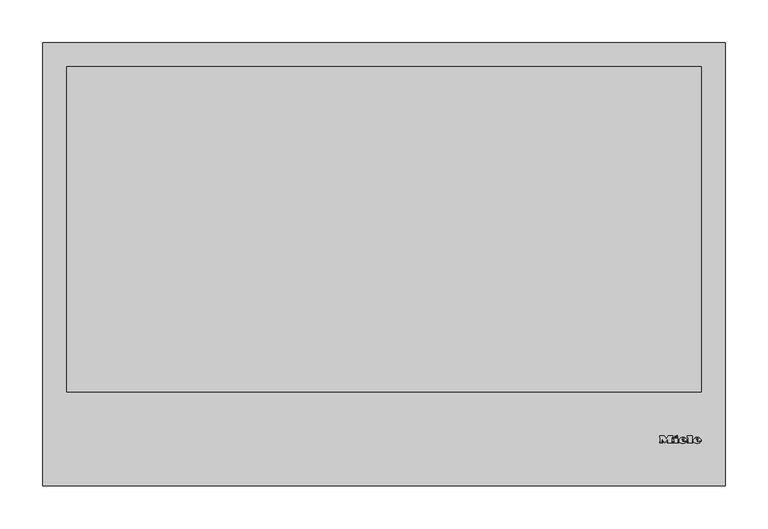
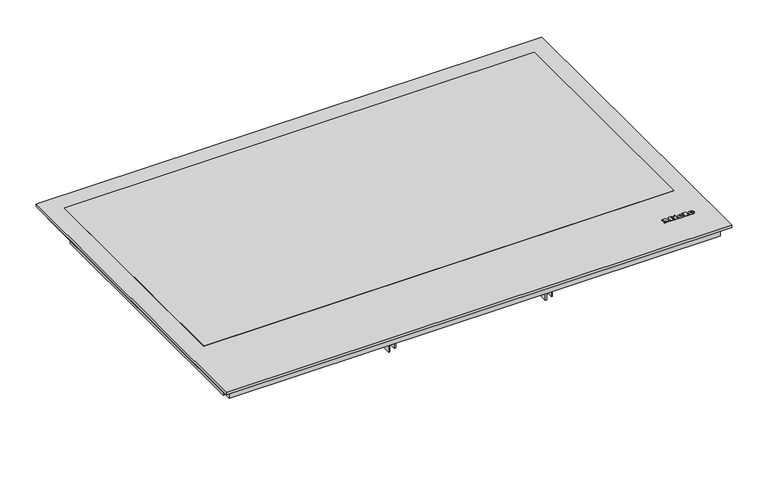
"""IFC4 building model written with IfcOpenShell, lengths in millimetres: proxy geometry, 11754170_BNE_KM7678FL : 26767870_BNE_11754170_KM7678FL."""

from ifc_helpers import new_model, si_unit, point, frame, frame_2d, origin, origin_with_axes, place, context, project, spatial, polyline, circle_curve, ellipse_curve, trimmed, segment, composite_curve, outline, extrude, source, transform, mapped, element, save
from ifc_brep_helpers import plane_surface, cylinder_surface, revolved_surface, extruded_surface, advanced_brep


def specialty_equipment_21553ecd(model_context):
    return source(origin(), model_context, "Body", "SolidModel", [
        advanced_brep(
        [(366.36, 52.3948833, 4.4802537), (366.36, 53.2028828, 4.4811551), (371.712, 53.2028828, 4.4811551), (362.4, 53.2028828, 4.4811551), (364.6, 50.4988845, 4.4781386), (371.576, 52.3948833, 4.4802537), (369.16, 52.3948833, 4.4802537), (367.256, 51.4988838, 4.4792542), (366.36, 54.2268821, 4.4822974), (366.36, 55.0988816, 4.4832701), (367.728, 55.0988816, 4.4832701), (367.728, 54.2268821, 4.4822974), (366.36, 52.3959988, 3.4802543), (367.256, 51.4999994, 3.4792548), (369.16, 52.3959988, 3.4802543), (371.576, 52.3959988, 3.4802543), (364.6, 50.5, 3.4781393), (362.4, 53.2039983, 3.4811557), (371.712, 53.2039983, 3.4811557), (366.36, 53.2039983, 3.4811557), (366.36, 54.2279977, 3.482298), (367.728, 54.2279977, 3.482298), (367.728, 55.0999971, 3.4832707), (366.36, 55.0999971, 3.4832707)],
        [
            (0, 1),
            (1, 2),
            (2, 3, ellipse_curve(frame((367.056, 53.2028828, 4.4811551), z_axis=(0.0, -0.0011155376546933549, 0.9999993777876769), x_axis=(-1.0, 0.0, 0.0)), 4.656, 3.848)),
            (3, 4, circle_curve(frame((365.4960436, 53.4748826, 4.4814585), z_axis=(0.0, -0.0011155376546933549, 0.9999993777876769), x_axis=(0.0, -0.9999993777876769, -0.0011155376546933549)), 3.1079688)),
            (4, 5, circle_curve(frame((366.9627936, 55.5868813, 4.4838145), z_axis=(0.0, -0.0011155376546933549, 0.9999993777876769), x_axis=(0.0, -0.9999993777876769, -0.0011155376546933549)), 5.6098607)),
            (5, 6),
            (6, 7, circle_curve(frame((367.6470588, 53.1388828, 4.4810837), z_axis=(0.0, 0.0011155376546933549, -0.9999993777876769), x_axis=(0.0, -0.9999993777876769, -0.0011155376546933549)), 1.6859795)),
            (7, 0, circle_curve(frame((367.256, 52.3948833, 4.4802537), z_axis=(0.0, 0.0011155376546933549, -0.9999993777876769), x_axis=(0.0, -0.9999993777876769, -0.0011155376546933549)), 0.896)),
            (8, 9),
            (9, 10, circle_curve(frame((367.044, 55.0988816, 4.4832701), z_axis=(0.0, 0.0011155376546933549, -0.9999993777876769), x_axis=(0.0, -0.9999993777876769, -0.0011155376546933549)), 0.684)),
            (10, 11),
            (11, 8),
            (12, 13, circle_curve(frame((367.256, 52.3959988, 3.4802543), z_axis=(0.0, -0.0011155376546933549, 0.9999993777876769), x_axis=(0.0, -0.9999993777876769, -0.0011155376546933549)), 0.896)),
            (13, 14, circle_curve(frame((367.6470588, 53.1399984, 3.4810843), z_axis=(0.0, -0.0011155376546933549, 0.9999993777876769), x_axis=(0.0, -0.9999993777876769, -0.0011155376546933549)), 1.6859795)),
            (14, 15),
            (15, 16, circle_curve(frame((366.9627936, 55.5879968, 3.4838151), z_axis=(0.0, 0.0011155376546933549, -0.9999993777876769), x_axis=(0.0, -0.9999993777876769, -0.0011155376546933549)), 5.6098607)),
            (16, 17, circle_curve(frame((365.4960436, 53.4759981, 3.4814591), z_axis=(0.0, 0.0011155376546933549, -0.9999993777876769), x_axis=(0.0, -0.9999993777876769, -0.0011155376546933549)), 3.1079688)),
            (17, 18, ellipse_curve(frame((367.056, 53.2039983, 3.4811557), z_axis=(0.0, 0.0011155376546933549, -0.9999993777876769), x_axis=(-1.0, 0.0, 0.0)), 4.656, 3.848)),
            (18, 19),
            (19, 12),
            (20, 21),
            (21, 22),
            (22, 23, circle_curve(frame((367.044, 55.0999971, 3.4832707), z_axis=(0.0, -0.0011155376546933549, 0.9999993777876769), x_axis=(0.0, -0.9999993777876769, -0.0011155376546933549)), 0.684)),
            (23, 20),
            (0, 12),
            (19, 1),
            (18, 2),
            (5, 15),
            (14, 6),
            (17, 3),
            (13, 7),
            (16, 4),
            (8, 20),
            (23, 9),
            (22, 10),
            (21, 11),
        ],
        [
            plane_surface(frame((366.36, 53.2028828, 4.4811551), z_axis=(0.0, -0.0011155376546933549, 0.9999993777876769), x_axis=(0.0, 0.9999993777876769, 0.0011155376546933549))),
            plane_surface(frame((366.36, 53.2039983, 3.4811557), z_axis=(0.0, 0.0011155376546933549, -0.9999993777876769), x_axis=(0.0, -0.9999993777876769, -0.0011155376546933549))),
            plane_surface(frame((366.36, 52.3948833, 4.4802537), z_axis=(1.0000000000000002, 0.0, 0.0), x_axis=(0.0, 0.001115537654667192, -0.999999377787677))),
            plane_surface(frame((366.36, 53.2028828, 4.4811551), z_axis=(0.0, -0.999999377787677, -0.001115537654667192), x_axis=(0.0, 0.001115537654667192, -0.999999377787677))),
            plane_surface(frame((371.576, 52.3948833, 4.4802537), z_axis=(0.0, 0.999999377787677, 0.001115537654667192), x_axis=(0.0, 0.001115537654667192, -0.999999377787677))),
            extruded_surface(trimmed(ellipse_curve(frame((367.056, 53.2051139, 2.4811563), z_axis=(0.0, -0.0011155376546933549, 0.9999993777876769), x_axis=(-1.0, 0.0, 0.0)), 4.656, 3.848), [point((371.712, 53.2051139, 2.4811563))], [point((362.4, 53.2051139, 2.4811563))], True, "CARTESIAN"), (0.0, -0.001115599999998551, 0.9999994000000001), 1.00000002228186),
            revolved_surface(polyline([(367.6470588, 51.454019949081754, 3.479203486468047), (367.6470588, 51.45290441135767, 4.4792029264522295)]), (367.6470588, 53.1399984, 3.4810843), (0.0, 0.0011155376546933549, -0.9999993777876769)),
            revolved_surface(polyline([(367.256, 51.49999935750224, 3.4792547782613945), (367.256, 51.49888381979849, 4.479254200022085)]), (367.256, 52.3959988, 3.4802543), (0.0, 0.0011155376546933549, -0.9999993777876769)),
            cylinder_surface(frame((365.4960436, 53.4759981, 3.4814591), z_axis=(0.0, -0.0011155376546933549, 0.9999993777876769), x_axis=(0.0, -0.9999993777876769, -0.0011155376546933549)), 3.1079688),
            cylinder_surface(frame((366.9627936, 55.5879968, 3.4838151), z_axis=(0.0, -0.0011155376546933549, 0.9999993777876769), x_axis=(0.0, -0.9999993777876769, -0.0011155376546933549)), 5.6098607),
            plane_surface(frame((366.36, 54.2268821, 4.4822974), z_axis=(1.0000000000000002, 0.0, 0.0), x_axis=(0.0, 0.001115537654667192, -0.999999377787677))),
            revolved_surface(polyline([(367.044, 54.415997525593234, 3.4825076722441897), (367.044, 54.41488198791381, 4.482507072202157)]), (367.044, 55.0999971, 3.4832707), (0.0, 0.0011155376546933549, -0.9999993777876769)),
            plane_surface(frame((367.728, 55.0988816, 4.4832701), z_axis=(-1.0000000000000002, 0.0, 0.0), x_axis=(0.0, 0.001115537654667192, -0.999999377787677))),
            plane_surface(frame((367.728, 54.2268821, 4.4822974), z_axis=(0.0, 0.999999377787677, 0.001115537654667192), x_axis=(0.0, 0.001115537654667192, -0.999999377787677))),
        ],
        [
            (0, [[1, 2, 3, 4, 5, 6, 7, 8], [9, 10, 11, 12]]),
            (1, [[13, 14, 15, 16, 17, 18, 19, 20], [21, 22, 23, 24]]),
            (2, [[-1, 25, -20, 26]]),
            (3, [[-2, -26, -19, 27]]),
            (4, [[-6, 28, -15, 29]]),
            (5, [[-3, -27, -18, 30]]),
            (6, [[-7, -29, -14, 31]]),
            (7, [[-8, -31, -13, -25]]),
            (8, [[-4, -30, -17, 32]]),
            (9, [[-5, -32, -16, -28]]),
            (10, [[-9, 33, -24, 34]]),
            (11, [[-10, -34, -23, 35]]),
            (12, [[-11, -35, -22, 36]]),
            (13, [[-12, -36, -21, -33]]),
        ],
    ),
        advanced_brep(
        [(349.664, 52.3948833, 4.4802537), (349.664, 53.2028828, 4.4811551), (355.016, 53.2028828, 4.4811551), (345.704, 53.2028828, 4.4811551), (347.904, 50.4988845, 4.4781386), (354.88, 52.3948833, 4.4802537), (352.464, 52.3948833, 4.4802537), (350.56, 51.4988838, 4.4792542), (349.664, 54.2268821, 4.4822974), (349.664, 55.0988816, 4.4832701), (351.032, 55.0988816, 4.4832701), (351.032, 54.2268821, 4.4822974), (349.664, 52.3959988, 3.4802543), (350.56, 51.4999994, 3.4792548), (352.464, 52.3959988, 3.4802543), (354.88, 52.3959988, 3.4802543), (347.904, 50.5, 3.4781393), (345.704, 53.2039983, 3.4811557), (355.016, 53.2039983, 3.4811557), (349.664, 53.2039983, 3.4811557), (349.664, 54.2279977, 3.482298), (351.032, 54.2279977, 3.482298), (351.032, 55.0999971, 3.4832707), (349.664, 55.0999971, 3.4832707)],
        [
            (0, 1),
            (1, 2),
            (2, 3, ellipse_curve(frame((350.36, 53.2028828, 4.4811551), z_axis=(0.0, -0.0011155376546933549, 0.9999993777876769), x_axis=(-1.0, 0.0, 0.0)), 4.656, 3.848)),
            (3, 4, circle_curve(frame((348.8000436, 53.4748826, 4.4814585), z_axis=(0.0, -0.0011155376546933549, 0.9999993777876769), x_axis=(0.0, -0.9999993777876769, -0.0011155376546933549)), 3.1079688)),
            (4, 5, circle_curve(frame((350.2667936, 55.5868813, 4.4838145), z_axis=(0.0, -0.0011155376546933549, 0.9999993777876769), x_axis=(0.0, -0.9999993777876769, -0.0011155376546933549)), 5.6098607)),
            (5, 6),
            (6, 7, circle_curve(frame((350.9510588, 53.1388828, 4.4810837), z_axis=(0.0, 0.0011155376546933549, -0.9999993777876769), x_axis=(0.0, -0.9999993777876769, -0.0011155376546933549)), 1.6859795)),
            (7, 0, circle_curve(frame((350.56, 52.3948833, 4.4802537), z_axis=(0.0, 0.0011155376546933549, -0.9999993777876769), x_axis=(0.0, -0.9999993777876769, -0.0011155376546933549)), 0.896)),
            (8, 9),
            (9, 10, circle_curve(frame((350.348, 55.0988816, 4.4832701), z_axis=(0.0, 0.0011155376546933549, -0.9999993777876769), x_axis=(0.0, -0.9999993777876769, -0.0011155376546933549)), 0.684)),
            (10, 11),
            (11, 8),
            (12, 13, circle_curve(frame((350.56, 52.3959988, 3.4802543), z_axis=(0.0, -0.0011155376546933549, 0.9999993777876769), x_axis=(0.0, -0.9999993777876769, -0.0011155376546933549)), 0.896)),
            (13, 14, circle_curve(frame((350.9510588, 53.1399984, 3.4810843), z_axis=(0.0, -0.0011155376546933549, 0.9999993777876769), x_axis=(0.0, -0.9999993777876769, -0.0011155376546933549)), 1.6859795)),
            (14, 15),
            (15, 16, circle_curve(frame((350.2667936, 55.5879968, 3.4838151), z_axis=(0.0, 0.0011155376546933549, -0.9999993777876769), x_axis=(0.0, -0.9999993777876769, -0.0011155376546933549)), 5.6098607)),
            (16, 17, circle_curve(frame((348.8000436, 53.4759981, 3.4814591), z_axis=(0.0, 0.0011155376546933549, -0.9999993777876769), x_axis=(0.0, -0.9999993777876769, -0.0011155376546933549)), 3.1079688)),
            (17, 18, ellipse_curve(frame((350.36, 53.2039983, 3.4811557), z_axis=(0.0, 0.0011155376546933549, -0.9999993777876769), x_axis=(-1.0, 0.0, 0.0)), 4.656, 3.848)),
            (18, 19),
            (19, 12),
            (20, 21),
            (21, 22),
            (22, 23, circle_curve(frame((350.348, 55.0999971, 3.4832707), z_axis=(0.0, -0.0011155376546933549, 0.9999993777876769), x_axis=(0.0, -0.9999993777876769, -0.0011155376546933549)), 0.684)),
            (23, 20),
            (0, 12),
            (19, 1),
            (18, 2),
            (5, 15),
            (14, 6),
            (17, 3),
            (13, 7),
            (16, 4),
            (8, 20),
            (23, 9),
            (22, 10),
            (21, 11),
        ],
        [
            plane_surface(frame((349.664, 53.2028828, 4.4811551), z_axis=(0.0, -0.0011155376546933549, 0.9999993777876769), x_axis=(0.0, 0.9999993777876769, 0.0011155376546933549))),
            plane_surface(frame((349.664, 53.2039983, 3.4811557), z_axis=(0.0, 0.0011155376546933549, -0.9999993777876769), x_axis=(0.0, -0.9999993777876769, -0.0011155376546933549))),
            plane_surface(frame((349.664, 52.3948833, 4.4802537), z_axis=(1.0000000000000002, 0.0, 0.0), x_axis=(0.0, 0.001115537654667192, -0.999999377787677))),
            plane_surface(frame((349.664, 53.2028828, 4.4811551), z_axis=(0.0, -0.999999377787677, -0.001115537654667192), x_axis=(0.0, 0.001115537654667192, -0.999999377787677))),
            plane_surface(frame((354.88, 52.3948833, 4.4802537), z_axis=(0.0, 0.999999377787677, 0.001115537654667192), x_axis=(0.0, 0.001115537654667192, -0.999999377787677))),
            extruded_surface(trimmed(ellipse_curve(frame((350.36, 53.2051139, 2.4811563), z_axis=(0.0, -0.0011155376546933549, 0.9999993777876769), x_axis=(-1.0, 0.0, 0.0)), 4.656, 3.848), [point((355.016, 53.2051139, 2.4811563))], [point((345.704, 53.2051139, 2.4811563))], True, "CARTESIAN"), (0.0, -0.001115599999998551, 0.9999994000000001), 1.00000002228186),
            revolved_surface(polyline([(350.9510588, 51.454019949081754, 3.479203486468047), (350.9510588, 51.45290441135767, 4.4792029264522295)]), (350.9510588, 53.1399984, 3.4810843), (0.0, 0.0011155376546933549, -0.9999993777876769)),
            revolved_surface(polyline([(350.56, 51.49999935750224, 3.4792547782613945), (350.56, 51.49888381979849, 4.479254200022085)]), (350.56, 52.3959988, 3.4802543), (0.0, 0.0011155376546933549, -0.9999993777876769)),
            cylinder_surface(frame((348.8000436, 53.4759981, 3.4814591), z_axis=(0.0, -0.0011155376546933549, 0.9999993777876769), x_axis=(0.0, -0.9999993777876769, -0.0011155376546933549)), 3.1079688),
            cylinder_surface(frame((350.2667936, 55.5879968, 3.4838151), z_axis=(0.0, -0.0011155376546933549, 0.9999993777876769), x_axis=(0.0, -0.9999993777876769, -0.0011155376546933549)), 5.6098607),
            plane_surface(frame((349.664, 54.2268821, 4.4822974), z_axis=(1.0000000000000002, 0.0, 0.0), x_axis=(0.0, 0.001115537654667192, -0.999999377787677))),
            revolved_surface(polyline([(350.348, 54.415997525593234, 3.4825076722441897), (350.348, 54.41488198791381, 4.482507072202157)]), (350.348, 55.0999971, 3.4832707), (0.0, 0.0011155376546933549, -0.9999993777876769)),
            plane_surface(frame((351.032, 55.0988816, 4.4832701), z_axis=(-1.0000000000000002, 0.0, 0.0), x_axis=(0.0, 0.001115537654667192, -0.999999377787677))),
            plane_surface(frame((351.032, 54.2268821, 4.4822974), z_axis=(0.0, 0.999999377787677, 0.001115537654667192), x_axis=(0.0, 0.001115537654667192, -0.999999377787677))),
        ],
        [
            (0, [[1, 2, 3, 4, 5, 6, 7, 8], [9, 10, 11, 12]]),
            (1, [[13, 14, 15, 16, 17, 18, 19, 20], [21, 22, 23, 24]]),
            (2, [[-1, 25, -20, 26]]),
            (3, [[-2, -26, -19, 27]]),
            (4, [[-6, 28, -15, 29]]),
            (5, [[-3, -27, -18, 30]]),
            (6, [[-7, -29, -14, 31]]),
            (7, [[-8, -31, -13, -25]]),
            (8, [[-4, -30, -17, 32]]),
            (9, [[-5, -32, -16, -28]]),
            (10, [[-9, 33, -24, 34]]),
            (11, [[-10, -34, -23, 35]]),
            (12, [[-11, -35, -22, 36]]),
            (13, [[-12, -36, -21, -33]]),
        ],
    ),
        extrude(outline(polyline([(0.0, 0.0), (-0.0109086, -2.9993294), (-1.4390415, -2.9920868), (-1.4315307, 0.0), (0.0, 0.0)])), frame((340.92, 58.0279953, 3.486537), z_axis=(0.0, -0.001115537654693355, 0.999999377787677), x_axis=(-0.4247202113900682, 0.9053240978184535, 0.0010099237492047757)), (0.0, 0.0, 1.0), 1.0),
        extrude(outline(polyline([(-0.4933908, 2.4141097), (-2.7800844, -2.4601583), (-7.0459741, -0.4588767), (-7.4401145, -1.299018), (-8.6568709, -0.728194), (-5.9760369, 4.9862153), (-4.7592805, 4.4153913), (-5.1636142, 3.5535222), (-2.1941493, 2.1604399), (-1.7898157, 3.022309), (-0.4933908, 2.4141097)])), frame((340.92, 58.0279953, 3.486537), z_axis=(0.0, -0.001115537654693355, 0.999999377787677), x_axis=(-0.4247202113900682, 0.9053240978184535, 0.0010099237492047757)), (0.0, 0.0, 1.0), 1.0),
        extrude(outline(polyline([(0.0, 0.0), (0.0, -1.304), (-5.504, -1.304), (-5.504, 5.3519999), (-6.488, 5.3519999), (-6.488, 6.696), (0.0, 6.696), (0.0, 5.3519999), (-0.96, 5.3519999), (-0.96, 0.0), (0.0, 0.0)])), frame((355.464, 57.1959958, 3.4856089), z_axis=(0.0, -0.0011155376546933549, 0.9999993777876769), x_axis=(-1.0, 0.0, 0.0)), (0.0, 0.0, 1.0), 1.0),
        extrude(outline(polyline([(0.0, 0.0), (0.0, -1.304), (-5.576, -1.304), (-7.92, 1.696), (-10.256, -1.304), (-15.128, -1.304), (-15.128, 0.0), (-14.112, 0.0), (-14.112, 5.3519999), (-15.128, 5.3519999), (-15.128, 6.696), (-8.744, 6.696), (-8.744, 5.3519999), (-9.728, 5.3519999), (-9.728, 1.8807777), (-6.136, 6.696), (-2.56, 1.9488752), (-2.56, 5.3519999), (-3.52, 5.3519999), (-3.52, 6.696), (0.0, 6.696), (0.0, 5.3519999), (-0.968, 5.3519999), (-0.968, 0.0), (0.0, 0.0)])), frame((323.0, 57.1959958, 3.4856089), z_axis=(0.0, -0.0011155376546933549, 0.9999993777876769), x_axis=(-1.0, 0.0, 0.0)), (0.0, 0.0, 1.0), 1.0),
        extrude(outline(polyline([(316.2772603, 459.5), (308.9, 459.5), (308.9, 460.7557039), (315.0215564, 460.7557039), (315.0215564, 464.0519266), (309.370889, 464.0519266), (309.370889, 465.3076304), (315.0215564, 465.3076304), (315.0215564, 468.2899271), (309.056963, 468.2899271), (309.056963, 469.545631), (316.2772603, 469.545631), (316.2772603, 459.5)])), frame((0.0, 0.0, -77.5), z_axis=(0.0, 0.0, 1.0), x_axis=(1.0, 0.0, 0.0)), (0.0, 0.0, 1.0), 1.0),
        extrude(outline(polyline([(307.0164442, 459.5), (300.7379248, 459.5), (300.7379248, 460.7557039), (305.7607403, 460.7557039), (305.7607403, 469.545631), (307.0164442, 469.545631), (307.0164442, 459.5)])), frame((0.0, 0.0, -77.5), z_axis=(0.0, 0.0, 1.0), x_axis=(1.0, 0.0, 0.0)), (0.0, 0.0, 1.0), 1.0),
        extrude(outline(polyline([(14.0, -27.0), (14.0, -16.8), (58.0, -16.8), (58.0, -43.0), (30.0, -43.0), (30.0, -27.0), (14.0, -27.0)])), frame((122.6666667, 0.0, 0.0), z_axis=(1.0, 0.0, 0.0), x_axis=(0.0, 1.0, 0.0)), (0.0, 0.0, 1.0), 2.0),
        extrude(outline(polyline([(478.0, -16.8), (506.0, -16.8), (506.0, -27.0), (490.0, -27.0), (490.0, -43.0), (478.0, -43.0), (478.0, -16.8)])), frame((122.6666667, 0.0, 0.0), z_axis=(1.0, 0.0, 0.0), x_axis=(0.0, 1.0, 0.0)), (0.0, 0.0, 1.0), 2.0),
        extrude(outline(polyline([(14.0, -27.0), (14.0, -16.8), (58.0, -16.8), (58.0, -43.0), (30.0, -43.0), (30.0, -27.0), (14.0, -27.0)])), frame((-125.6666667, 0.0, 0.0), z_axis=(1.0, 0.0, 0.0), x_axis=(0.0, 1.0, 0.0)), (0.0, 0.0, 1.0), 2.0),
        extrude(outline(polyline([(490.0, -27.0), (490.0, -43.0), (478.0, -43.0), (478.0, -16.8), (506.0, -16.8), (506.0, -27.0), (490.0, -27.0)])), frame((-125.6666667, 0.0, 0.0), z_axis=(1.0, 0.0, 0.0), x_axis=(0.0, 1.0, 0.0)), (0.0, 0.0, 1.0), 2.0),
        extrude(outline(polyline([(371.0, 478.0), (371.0, 58.0), (-371.0, 58.0), (-371.0, 478.0), (371.0, 478.0)])), frame((0.0, 0.0, -46.5), z_axis=(0.0, 0.0, 1.0), x_axis=(1.0, 0.0, 0.0)), (0.0, 0.0, 1.0), 29.7),
        extrude(outline(polyline([(400.0, 520.0), (400.0, 0.0), (-400.0, 0.0), (-400.0, 520.0), (400.0, 520.0)])), origin_with_axes(), (0.0, 0.0, 1.0), 4.0),
        extrude(outline(polyline([(388.5, 508.5), (388.5, 11.5), (-388.5, 11.5), (-388.5, 508.5), (388.5, 508.5)])), frame((0.0, 0.0, -16.8), z_axis=(0.0, 0.0, 1.0), x_axis=(1.0, 0.0, 0.0)), (0.0, 0.0, 1.0), 16.8),
        extrude(outline(composite_curve([segment(trimmed(circle_curve(frame_2d((308.9, 464.5)), 7.5), [point((308.9, 472.0))], [point((308.9, 457.0))], False, "CARTESIAN"), True, "CONTINUOUS"), segment(trimmed(circle_curve(frame_2d((308.9, 464.5)), 7.5), [point((308.9, 457.0))], [point((308.9, 472.0))], False, "CARTESIAN"), True, "CONTINUOUS")], self_intersect=False)), frame((0.0, 0.0, -76.5), z_axis=(0.0, 0.0, 1.0), x_axis=(1.0, 0.0, 0.0)), (0.0, 0.0, 1.0), 30.0),
        extrude(outline(polyline([(372.0, 492.05), (372.0, 110.55), (-372.0, 110.55), (-372.0, 492.05), (372.0, 492.05)])), frame((0.0, 0.0, 4.0), z_axis=(0.0, 0.0, 1.0), x_axis=(1.0, 0.0, 0.0)), (0.0, 0.0, 1.0), 1.0),
        extrude(outline(composite_curve([segment(trimmed(circle_curve(frame_2d((-381.0, 80.0)), 3.0), [point((-381.0, 83.0))], [point((-381.0, 77.0))], False, "CARTESIAN"), True, "CONTINUOUS"), segment(trimmed(circle_curve(frame_2d((-381.0, 80.0)), 3.0), [point((-381.0, 77.0))], [point((-381.0, 83.0))], False, "CARTESIAN"), True, "CONTINUOUS")], self_intersect=False)), frame((0.0, 0.0, -22.0), z_axis=(0.0, 0.0, 1.0), x_axis=(1.0, 0.0, 0.0)), (0.0, 0.0, 1.0), 5.2),
        extrude(outline(composite_curve([segment(trimmed(circle_curve(frame_2d((381.0, 440.0)), 3.0), [point((381.0, 443.0))], [point((381.0, 437.0))], False, "CARTESIAN"), True, "CONTINUOUS"), segment(trimmed(circle_curve(frame_2d((381.0, 440.0)), 3.0), [point((381.0, 437.0))], [point((381.0, 443.0))], False, "CARTESIAN"), True, "CONTINUOUS")], self_intersect=False)), frame((0.0, 0.0, -22.0), z_axis=(0.0, 0.0, 1.0), x_axis=(1.0, 0.0, 0.0)), (0.0, 0.0, 1.0), 5.2),
    ])


if __name__ == "__main__":
    model = new_model("IFC4")
    model_context = context("Model", 3, world=origin())
    ifc_project = project(units=[si_unit("LENGTHUNIT", "METRE", prefix="MILLI")], contexts=[model_context])
    site = spatial("IfcSite", under=ifc_project)
    building = spatial("IfcBuilding", under=site)
    placement = place(None, origin())
    specialty_equipment_shape = specialty_equipment_21553ecd(model_context)
    element("IfcBuildingElementProxy", 1, Name="11754170_BNE_KM7678FL : 26767870_BNE_11754170_KM7678FL", ObjectType="11754170_BNE_KM7678FL : 26767870_BNE_11754170_KM7678FL", at=placement, inside=building, context=model_context, shape_type="MappedRepresentation", body=[
        mapped(specialty_equipment_shape, transform((0.0, 0.0, 0.0), x_axis=(1.0, 0.0, 0.0), y_axis=(0.0, 1.0, 0.0), z_axis=(0.0, 0.0, 1.0))),
    ])
    save(model, "model.ifc")
